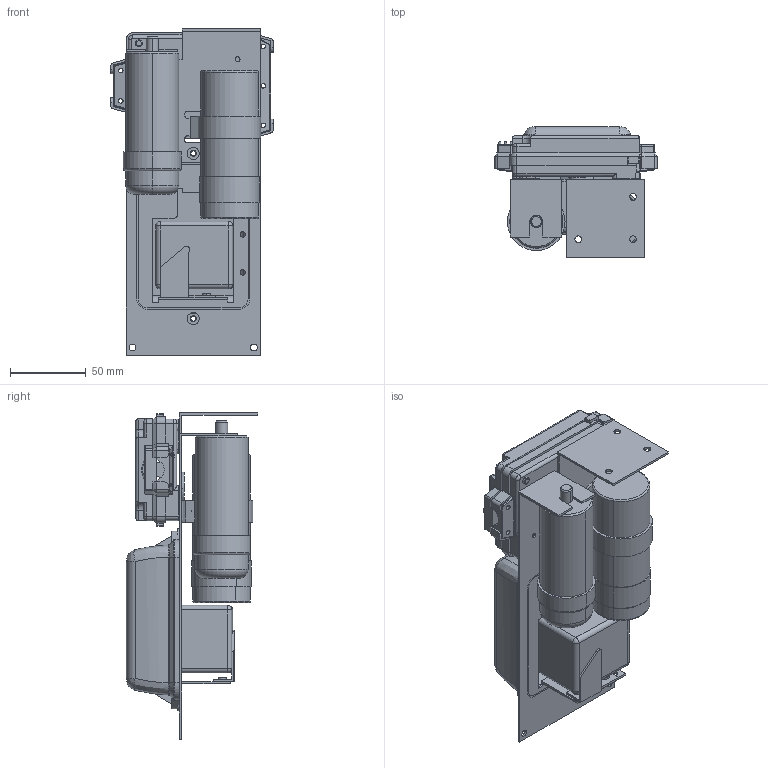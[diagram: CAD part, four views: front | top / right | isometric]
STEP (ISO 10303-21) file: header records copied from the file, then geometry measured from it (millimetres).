
FILE_DESCRIPTION((''),'2;1');
FILE_NAME('117-7029_ASM','2025-01-24T08:54:34',('SKHC0530'),(''),'CREO PARAMETRIC BY PTC INC, 2022162','CREO PARAMETRIC BY PTC INC, 2022162','');
FILE_SCHEMA(('CONFIG_CONTROL_DESIGN'));
Length unit declared in the file: millimetre
Products named in the file (11): 117-7371; 117-7372; 117-7424; 117-7112; 117U5373; 117-8302; 117-8301; 117-8304; 117-8305; 117-8352_VERTEILERDOSE_ASM; 117-7029_ASM
Assembly tree (10 placements, depth 3):
  117-7029_ASM
    117-7371
    117-7372
    117-7424
    117-7112
    117U5373
    117-8352_VERTEILERDOSE_ASM
      117-8302
      117-8301
      117-8304
      117-8305
Bounding box: 107.1 x 86.5 x 215 mm (x, y, z)
Volume: 419927.3 mm3; surface area: 170986.1 mm2
Topology: 9 solids, 9 shells, 830 faces, 2104 edges, 1328 vertices
Faces by surface type: cylinder 362, plane 347, bspline 55, torus 42, cone 16, sphere 8
Entity records: 27497 total; most frequent: CARTESIAN_POINT 6976, DIRECTION 4318, ORIENTED_EDGE 4208, EDGE_CURVE 2104, AXIS2_PLACEMENT_3D 1566, VERTEX_POINT 1328, VECTOR 1186, LINE 1186
